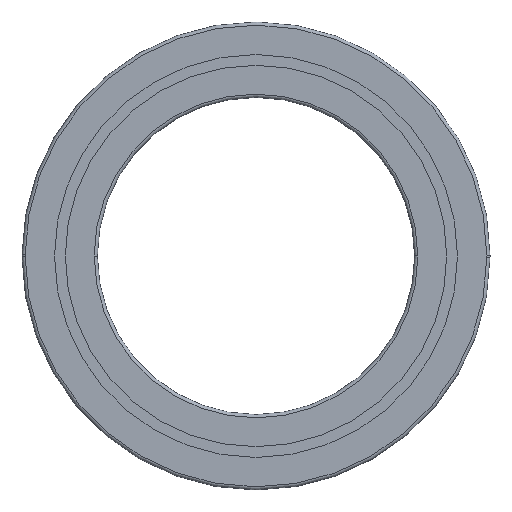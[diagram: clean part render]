
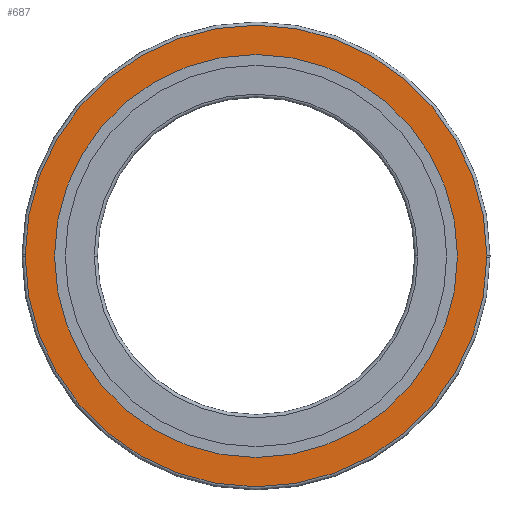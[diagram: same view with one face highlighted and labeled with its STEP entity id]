
A CAD part, front view. The second image highlights one B-rep face of the part: STEP entity #687.
In plain terms, the highlighted planar face has unit normal (0, -1, 0).
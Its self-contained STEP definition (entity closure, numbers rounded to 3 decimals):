
#395=VERTEX_POINT('',#947);
#445=VERTEX_POINT('',#1004);
#483=EDGE_CURVE('',#395,#445,#1048,.T.);
#499=EDGE_CURVE('',#631,#395,#1065,.T.);
#557=VERTEX_POINT('',#1128);
#575=EDGE_CURVE('',#795,#631,#1147,.T.);
#607=VERTEX_POINT('',#1182);
#631=VERTEX_POINT('',#1209);
#687=ADVANCED_FACE('',(#1268,#1269),#1270,.F.);
#717=EDGE_CURVE('',#557,#607,#1304,.T.);
#719=EDGE_CURVE('',#445,#795,#1306,.T.);
#789=EDGE_CURVE('',#607,#557,#1387,.T.);
#795=VERTEX_POINT('',#1394);
#947=CARTESIAN_POINT('',(145.5,0.0,0.0));
#1004=CARTESIAN_POINT('',(-145.497,0.0,0.9));
#1048=CIRCLE('',#1692,145.5);
#1065=CIRCLE('',#1715,145.5);
#1128=CARTESIAN_POINT('',(-127.0,0.0,0.0));
#1147=CIRCLE('',#1821,145.5);
#1182=CARTESIAN_POINT('',(127.0,0.0,0.));
#1209=CARTESIAN_POINT('',(145.497,0.0,-0.9));
#1268=FACE_OUTER_BOUND('',#1969,.T.);
#1269=FACE_BOUND('',#1970,.T.);
#1270=PLANE('',#1971);
#1304=CIRCLE('',#2011,127.0);
#1306=CIRCLE('',#2014,145.5);
#1387=CIRCLE('',#2112,127.0);
#1394=CARTESIAN_POINT('',(-145.5,0.0,0.));
#1692=AXIS2_PLACEMENT_3D('',#2454,#2455,#2456);
#1715=AXIS2_PLACEMENT_3D('',#2480,#2481,#2482);
#1821=AXIS2_PLACEMENT_3D('',#2584,#2585,#2586);
#1969=EDGE_LOOP('',(#2718,#2719,#2720,#2721));
#1970=EDGE_LOOP('',(#2722,#2723));
#1971=AXIS2_PLACEMENT_3D('',#2724,#2725,#2726);
#2011=AXIS2_PLACEMENT_3D('',#2772,#2773,#2774);
#2014=AXIS2_PLACEMENT_3D('',#2775,#2776,#2777);
#2112=AXIS2_PLACEMENT_3D('',#2883,#2884,#2885);
#2454=CARTESIAN_POINT('',(0.0,0.0,0.0));
#2455=DIRECTION('',(0.0,-1.0,0.0));
#2456=DIRECTION('',(1.0,0.0,0.0));
#2480=CARTESIAN_POINT('',(0.0,0.0,0.0));
#2481=DIRECTION('',(0.0,-1.0,0.0));
#2482=DIRECTION('',(-1.0,0.0,0.0));
#2584=CARTESIAN_POINT('',(0.0,0.0,0.0));
#2585=DIRECTION('',(0.0,-1.0,0.0));
#2586=DIRECTION('',(-1.0,0.0,0.0));
#2718=ORIENTED_EDGE('',*,*,#483,.T.);
#2719=ORIENTED_EDGE('',*,*,#719,.T.);
#2720=ORIENTED_EDGE('',*,*,#575,.T.);
#2721=ORIENTED_EDGE('',*,*,#499,.T.);
#2722=ORIENTED_EDGE('',*,*,#717,.F.);
#2723=ORIENTED_EDGE('',*,*,#789,.F.);
#2724=CARTESIAN_POINT('',(0.0,0.0,0.0));
#2725=DIRECTION('',(0.0,1.0,0.0));
#2726=DIRECTION('',(1.0,0.0,-0.0));
#2772=CARTESIAN_POINT('',(0.0,0.0,0.0));
#2773=DIRECTION('',(0.0,-1.0,0.0));
#2774=DIRECTION('',(-1.0,0.0,0.0));
#2775=CARTESIAN_POINT('',(0.0,0.0,0.0));
#2776=DIRECTION('',(0.0,-1.0,0.0));
#2777=DIRECTION('',(1.0,0.0,0.0));
#2883=CARTESIAN_POINT('',(0.0,0.0,0.0));
#2884=DIRECTION('',(0.0,-1.0,0.0));
#2885=DIRECTION('',(1.0,0.0,0.0));
